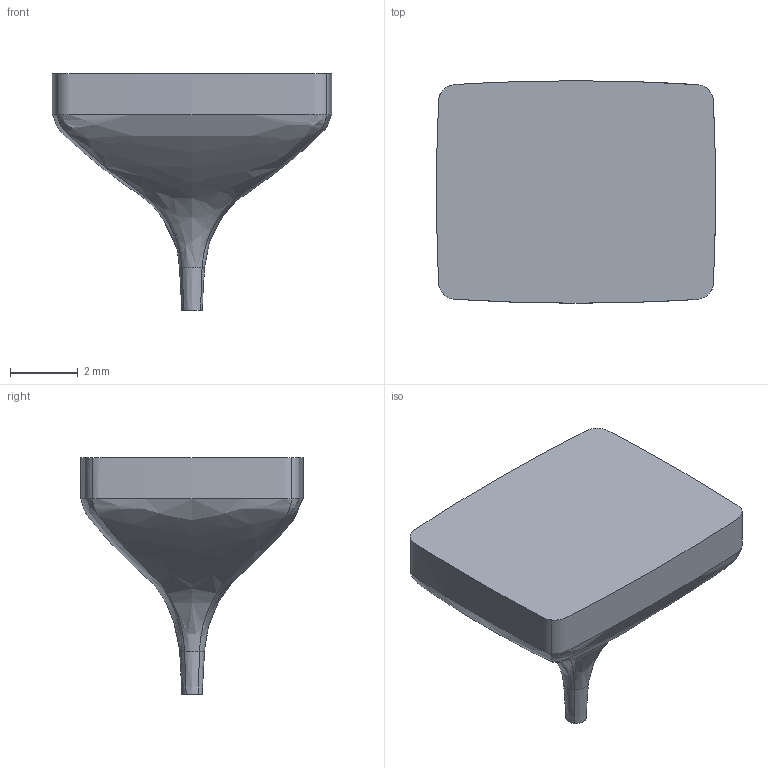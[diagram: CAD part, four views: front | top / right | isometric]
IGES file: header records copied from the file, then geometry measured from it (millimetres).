
Start section: /COM,ANSYS RELEASE  9.0    UP20041104       15:31:50    01/22/2006 /NOPR /PREP7 /TITLE, ANTYPE, 4 DOF,TEMP, BFUNIF,TEMP,25.0000000 KUSE,0 TIME,0.00000000 TREF,0.00000000 ALPHAD,0.00000000 BETAD,0.00000000 DMPRAT,0.00000000 TIMINT,ON,THER TINTP,R8.1,5.000000000E-03,,, TINTP,R8.1,-1.00000000,0.500000000,-1.00000000,,,, TINTP,R8.1,5.000000000E-03,0.00000000 CRPLIM,0.100000000,0 CRPLIM,0.00000000,1 NC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
Global section: file name: EX6-2.iges; native system: ANSYS; preprocessor:   9.0      UP20041104; date: 000122.153150
Bounding box: 8.25 x 6.58 x 7.01 mm (x, y, z)
Surface area: 306.3 mm2 (no closed solid volume)
Topology: 0 solids, 0 shells, 51 faces, 402 edges, 402 vertices
Faces by surface type: bspline 51
